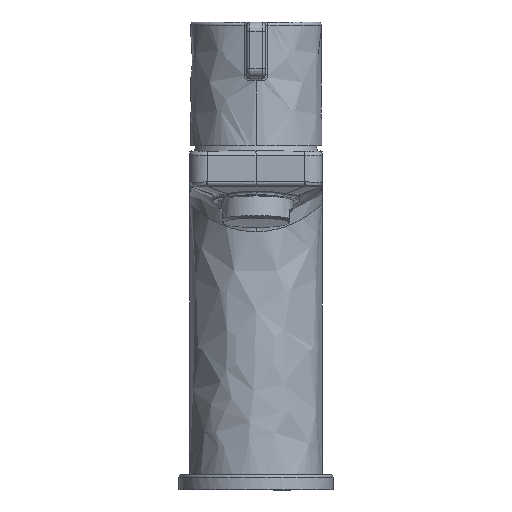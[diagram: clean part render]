
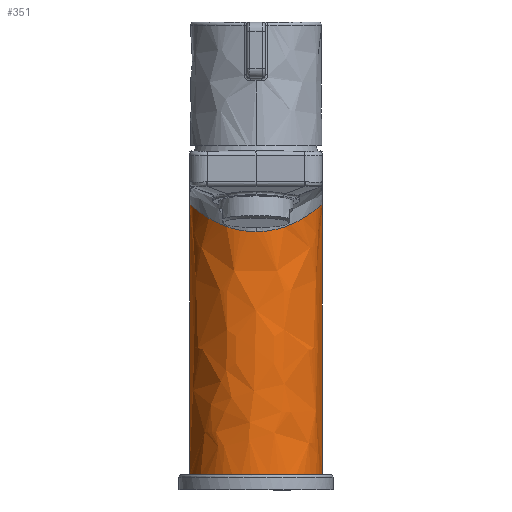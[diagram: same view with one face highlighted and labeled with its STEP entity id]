
A CAD part, front view. The second image highlights one B-rep face of the part: STEP entity #351.
In plain terms, the highlighted free-form (B-spline) face has degree [2, 1] with [9, 2] control points.
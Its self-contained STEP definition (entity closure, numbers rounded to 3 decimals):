
#351=ADVANCED_FACE('',(#609),#4078,.T.);
#609=FACE_OUTER_BOUND('',#889,.T.);
#889=EDGE_LOOP('',(#1986,#1987,#1988,#1989,#1990));
#1986=ORIENTED_EDGE('',*,*,#2750,.T.);
#1987=ORIENTED_EDGE('',*,*,#2748,.F.);
#1988=ORIENTED_EDGE('',*,*,#2663,.T.);
#1989=ORIENTED_EDGE('',*,*,#2746,.T.);
#1990=ORIENTED_EDGE('',*,*,#2749,.F.);
#2663=EDGE_CURVE('',#3804,#3810,#3224,.T.);
#2746=EDGE_CURVE('',#3810,#3800,#3302,.T.);
#2748=EDGE_CURVE('',#3804,#3859,#3304,.T.);
#2749=EDGE_CURVE('',#3860,#3800,#3305,.T.);
#2750=EDGE_CURVE('',#3860,#3859,#3472,.T.);
#3224=B_SPLINE_CURVE_WITH_KNOTS('',3,(#12442,#12443,#12444,#12445,#12446,
#12447,#12448,#12449,#12450,#12451,#12452,#12453),.UNSPECIFIED.,.F.,.F.,
(4,2,2,2,2,4),(0.,0.125,0.25,0.5,
0.75,1.),.UNSPECIFIED.);
#3302=B_SPLINE_CURVE_WITH_KNOTS('',3,(#12948,#12949,#12950,#12951,#12952,
#12953,#12954,#12955,#12956,#12957),.UNSPECIFIED.,.F.,.F.,(4,2,2,2,4),(0.,
0.25,0.5,0.749,1.),
 .UNSPECIFIED.);
#3304=B_SPLINE_CURVE_WITH_KNOTS('',3,(#12968,#12969,#12970,#12971),
 .UNSPECIFIED.,.F.,.F.,(4,4),(0.,87.577),.UNSPECIFIED.);
#3305=B_SPLINE_CURVE_WITH_KNOTS('',1,(#12972,#12973),.UNSPECIFIED.,.F.,
 .F.,(2,2),(-87.572,0.),.UNSPECIFIED.);
#3472=(
BOUNDED_CURVE()
B_SPLINE_CURVE(2,(#12974,#12975,#12976,#12977,#12978),.UNSPECIFIED.,.F.,
 .F.)
B_SPLINE_CURVE_WITH_KNOTS((3,2,3),(-67.544,-33.772,
0.),.UNSPECIFIED.)
CURVE()
GEOMETRIC_REPRESENTATION_ITEM()
RATIONAL_B_SPLINE_CURVE((1.,0.707,1.,0.707,1.))
REPRESENTATION_ITEM('')
);
#3800=VERTEX_POINT('',#12097);
#3804=VERTEX_POINT('',#12101);
#3810=VERTEX_POINT('',#12107);
#3859=VERTEX_POINT('',#12156);
#3860=VERTEX_POINT('',#12157);
#4078=(
BOUNDED_SURFACE()
B_SPLINE_SURFACE(2,1,((#10762,#10763),(#10764,#10765),(#10766,#10767),(#10768,
#10769),(#10770,#10771),(#10772,#10773),(#10774,#10775),(#10776,#10777),
(#10778,#10779)),.UNSPECIFIED.,.T.,.F.,.F.)
B_SPLINE_SURFACE_WITH_KNOTS((3,2,2,2,3),(2,2),(0.,33.772,67.544,
101.316,135.088),(0.,105.332),.UNSPECIFIED.)
GEOMETRIC_REPRESENTATION_ITEM()
RATIONAL_B_SPLINE_SURFACE(((1.,1.),(0.707,0.707),
(1.,1.),(0.707,0.707),(1.,1.),(0.707,
0.707),(1.,1.),(0.707,0.707),(1.,1.)))
REPRESENTATION_ITEM('')
SURFACE()
);
#10762=CARTESIAN_POINT('',(0.,59.94,23.95));
#10763=CARTESIAN_POINT('',(0.,59.94,-81.382));
#10764=CARTESIAN_POINT('',(21.5,59.94,23.95));
#10765=CARTESIAN_POINT('',(21.5,59.94,-81.382));
#10766=CARTESIAN_POINT('',(21.5,38.44,23.95));
#10767=CARTESIAN_POINT('',(21.5,38.44,-81.382));
#10768=CARTESIAN_POINT('',(21.5,16.94,23.95));
#10769=CARTESIAN_POINT('',(21.5,16.94,-81.382));
#10770=CARTESIAN_POINT('',(0.,16.94,23.95));
#10771=CARTESIAN_POINT('',(0.,16.94,-81.382));
#10772=CARTESIAN_POINT('',(-21.5,16.94,23.95));
#10773=CARTESIAN_POINT('',(-21.5,16.94,-81.382));
#10774=CARTESIAN_POINT('',(-21.5,38.44,23.95));
#10775=CARTESIAN_POINT('',(-21.5,38.44,-81.382));
#10776=CARTESIAN_POINT('',(-21.5,59.94,23.95));
#10777=CARTESIAN_POINT('',(-21.5,59.94,-81.382));
#10778=CARTESIAN_POINT('',(0.,59.94,23.95));
#10779=CARTESIAN_POINT('',(0.,59.94,-81.382));
#12097=CARTESIAN_POINT('',(-21.5,38.44,15.068));
#12101=CARTESIAN_POINT('',(21.5,38.432,15.073));
#12107=CARTESIAN_POINT('',(0.,16.941,5.998));
#12156=CARTESIAN_POINT('',(21.5,38.44,-72.504));
#12157=CARTESIAN_POINT('',(-21.5,38.44,-72.504));
#12442=CARTESIAN_POINT('',(21.5,38.432,15.073));
#12443=CARTESIAN_POINT('',(21.5,36.993,15.059));
#12444=CARTESIAN_POINT('',(21.353,35.56,14.923));
#12445=CARTESIAN_POINT('',(20.786,32.769,14.417));
#12446=CARTESIAN_POINT('',(20.367,31.409,14.052));
#12447=CARTESIAN_POINT('',(18.731,27.516,12.707));
#12448=CARTESIAN_POINT('',(17.167,25.202,11.511));
#12449=CARTESIAN_POINT('',(13.25,21.283,9.184));
#12450=CARTESIAN_POINT('',(10.92,19.705,8.064));
#12451=CARTESIAN_POINT('',(5.717,17.523,6.465));
#12452=CARTESIAN_POINT('',(2.864,16.938,5.99));
#12453=CARTESIAN_POINT('',(0.,16.941,5.998));
#12948=CARTESIAN_POINT('',(0.,16.941,5.998));
#12949=CARTESIAN_POINT('',(-2.962,16.941,5.996));
#12950=CARTESIAN_POINT('',(-5.844,17.557,6.491));
#12951=CARTESIAN_POINT('',(-11.037,19.776,8.113));
#12952=CARTESIAN_POINT('',(-13.325,21.351,9.226));
#12953=CARTESIAN_POINT('',(-17.145,25.188,11.501));
#12954=CARTESIAN_POINT('',(-18.694,27.46,12.679));
#12955=CARTESIAN_POINT('',(-20.884,32.61,14.475));
#12956=CARTESIAN_POINT('',(-21.5,35.468,15.068));
#12957=CARTESIAN_POINT('',(-21.5,38.44,15.068));
#12968=CARTESIAN_POINT('',(21.5,38.432,15.073));
#12969=CARTESIAN_POINT('',(21.5,38.435,-14.12));
#12970=CARTESIAN_POINT('',(21.5,38.437,-43.312));
#12971=CARTESIAN_POINT('',(21.5,38.44,-72.504));
#12972=CARTESIAN_POINT('',(-21.5,38.44,-72.504));
#12973=CARTESIAN_POINT('',(-21.5,38.44,15.068));
#12974=CARTESIAN_POINT('',(-21.5,38.44,-72.504));
#12975=CARTESIAN_POINT('',(-21.5,16.94,-72.504));
#12976=CARTESIAN_POINT('',(0.,16.94,-72.504));
#12977=CARTESIAN_POINT('',(21.5,16.94,-72.504));
#12978=CARTESIAN_POINT('',(21.5,38.44,-72.504));
